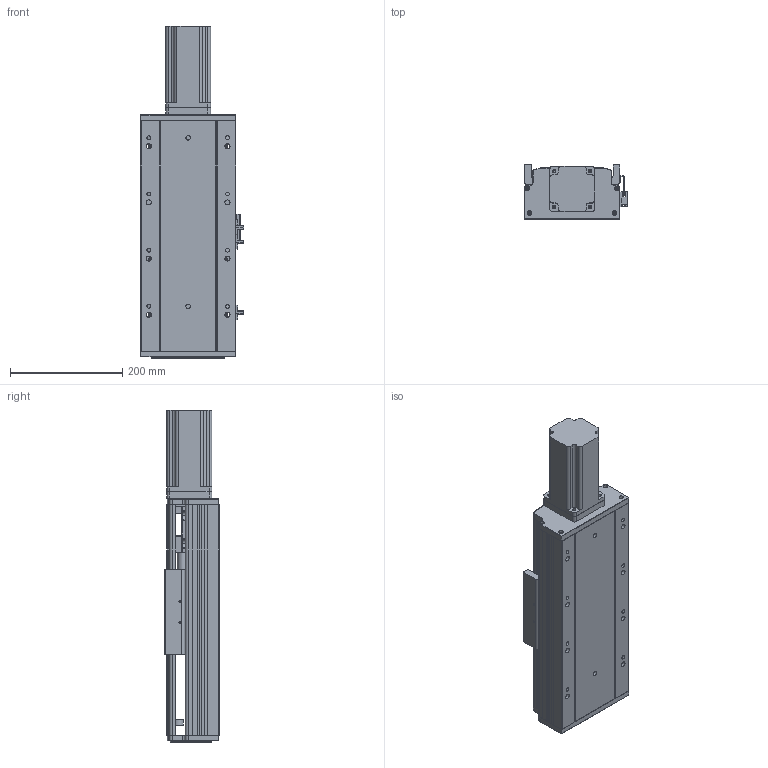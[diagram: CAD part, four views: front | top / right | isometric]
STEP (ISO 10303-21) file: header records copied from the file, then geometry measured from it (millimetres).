
FILE_DESCRIPTION (( 'STEP AP203' ), '1' );
FILE_NAME ('RY170-L2510-300-MK(FK17).SLDASM_100.step', '2022-08-23T02:00:01', ( '' ), ( '' ), 'SwSTEP 2.0', 'SolidWorks 2016', '' );
FILE_SCHEMA (( 'CONFIG_CONTROL_DESIGN' ));
Length unit declared in the file: millimetre
Products named in the file (15): 侂狟750W萇儂ㄗ80遺ㄘ; RY170-300倰第裔啣-MK_100; RY170臏賑輸25佪裝蹟譫; RY170綴裔啣; RY170ヶ醱裔啣; 15; RY170外置感应片(200共用）; 覜茼ん672; 滅袉蝶18-28; 侂狟400W侜督萇儂; 滅袉蝶18-10; RY170电机端支撑座(25丝杆7004轴承)-压铸(FK17); RY170-L2510-300-MK(FK17).SLDASM_100; 750W萇儂梓袧蛌諉啣; RY170-300倰第菁釱-MK_100
Assembly tree (16 placements, depth 3):
  RY170-L2510-300-MK(FK17).SLDASM_100
    RY170-300倰第菁釱-MK_100
    RY170-300倰第裔啣-MK_100
    RY170臏賑輸25佪裝蹟譫
    侂狟400W侜督萇儂
      15
    RY170綴裔啣
    RY170电机端支撑座(25丝杆7004轴承)-压铸(FK17)
    覜茼ん672  x3
    RY170外置感应片(200共用）
    RY170ヶ醱裔啣
    滅袉蝶18-28
    滅袉蝶18-10
    侂狟750W萇儂ㄗ80遺ㄘ
    750W萇儂梓袧蛌諉啣
Bounding box: 183.7 x 97 x 591 mm (x, y, z)
Volume: 3993295.1 mm3; surface area: 972738.7 mm2
Topology: 15 solids, 15 shells, 2077 faces, 5859 edges, 3766 vertices
Faces by surface type: plane 1014, cylinder 832, cone 195, bspline 36
Entity records: 66007 total; most frequent: CARTESIAN_POINT 14868, ORIENTED_EDGE 10522, DIRECTION 10247, EDGE_CURVE 5261, AXIS2_PLACEMENT_3D 3530, VERTEX_POINT 3446, VECTOR 3187, LINE 3187
